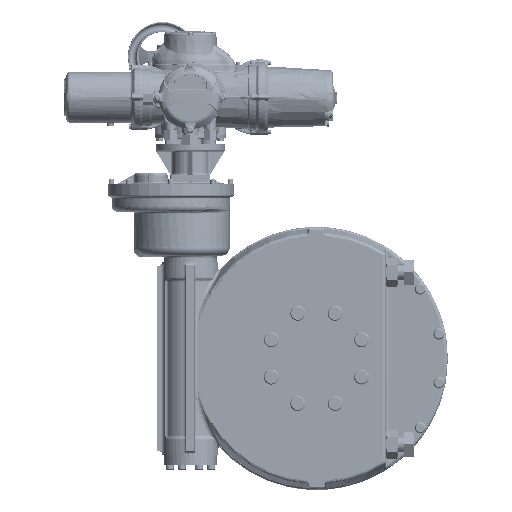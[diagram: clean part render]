
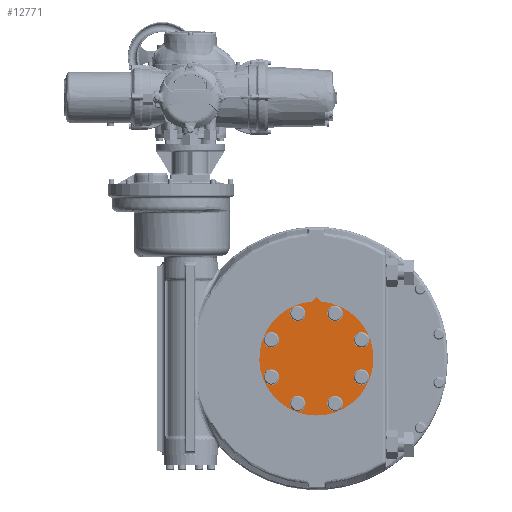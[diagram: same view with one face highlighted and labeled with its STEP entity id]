
A CAD part, front view. The second image highlights one B-rep face of the part: STEP entity #12771.
In plain terms, the highlighted planar face has unit normal (0, -1, 0).
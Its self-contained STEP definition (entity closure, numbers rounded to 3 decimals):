
#12771 = ADVANCED_FACE( '', ( #31224, #31225, #31226, #31227, #31228, #31229, #31230, #31231, #31232 ), #31233, .T. );
#31224 = FACE_BOUND( '', #137440, .T. );
#31225 = FACE_BOUND( '', #137441, .T. );
#31226 = FACE_BOUND( '', #137442, .T. );
#31227 = FACE_BOUND( '', #137443, .T. );
#31228 = FACE_BOUND( '', #137444, .T. );
#31229 = FACE_BOUND( '', #137445, .T. );
#31230 = FACE_BOUND( '', #137446, .T. );
#31231 = FACE_BOUND( '', #137447, .T. );
#31232 = FACE_OUTER_BOUND( '', #137448, .T. );
#31233 = PLANE( '', #137449 );
#137440 = EDGE_LOOP( '', ( #383477 ) );
#137441 = EDGE_LOOP( '', ( #383478 ) );
#137442 = EDGE_LOOP( '', ( #383479 ) );
#137443 = EDGE_LOOP( '', ( #383480 ) );
#137444 = EDGE_LOOP( '', ( #383481 ) );
#137445 = EDGE_LOOP( '', ( #383482 ) );
#137446 = EDGE_LOOP( '', ( #383483 ) );
#137447 = EDGE_LOOP( '', ( #383484 ) );
#137448 = EDGE_LOOP( '', ( #383485, #383486, #383487 ) );
#137449 = AXIS2_PLACEMENT_3D( '', #383488, #383489, #383490 );
#383477 = ORIENTED_EDGE( '', *, *, #439533, .T. );
#383478 = ORIENTED_EDGE( '', *, *, #428770, .T. );
#383479 = ORIENTED_EDGE( '', *, *, #439534, .T. );
#383480 = ORIENTED_EDGE( '', *, *, #439535, .T. );
#383481 = ORIENTED_EDGE( '', *, *, #439536, .T. );
#383482 = ORIENTED_EDGE( '', *, *, #434888, .T. );
#383483 = ORIENTED_EDGE( '', *, *, #439537, .T. );
#383484 = ORIENTED_EDGE( '', *, *, #429261, .T. );
#383485 = ORIENTED_EDGE( '', *, *, #439538, .T. );
#383486 = ORIENTED_EDGE( '', *, *, #439539, .T. );
#383487 = ORIENTED_EDGE( '', *, *, #439540, .T. );
#383488 = CARTESIAN_POINT( '', ( 381., -75.725, -788.975 ) );
#383489 = DIRECTION( '', ( 0., -1., 0. ) );
#383490 = DIRECTION( '', ( 0., 0., 1. ) );
#428770 = EDGE_CURVE( '', #455536, #455536, #455537, .F. );
#429261 = EDGE_CURVE( '', #456400, #456400, #456401, .F. );
#434888 = EDGE_CURVE( '', #465918, #465918, #465919, .F. );
#439533 = EDGE_CURVE( '', #473007, #473007, #473008, .F. );
#439534 = EDGE_CURVE( '', #473009, #473009, #473010, .F. );
#439535 = EDGE_CURVE( '', #473011, #473011, #473012, .F. );
#439536 = EDGE_CURVE( '', #473013, #473013, #473014, .F. );
#439537 = EDGE_CURVE( '', #473015, #473015, #473016, .F. );
#439538 = EDGE_CURVE( '', #473017, #473018, #473019, .T. );
#439539 = EDGE_CURVE( '', #473018, #473020, #473021, .T. );
#439540 = EDGE_CURVE( '', #473020, #473017, #473022, .T. );
#455536 = VERTEX_POINT( '', #499194 );
#455537 = CIRCLE( '', #499195, 23.5 );
#456400 = VERTEX_POINT( '', #502968 );
#456401 = CIRCLE( '', #502969, 23.5 );
#465918 = VERTEX_POINT( '', #548089 );
#465919 = CIRCLE( '', #548090, 23.5 );
#473007 = VERTEX_POINT( '', #587246 );
#473008 = CIRCLE( '', #587247, 23.5 );
#473009 = VERTEX_POINT( '', #587248 );
#473010 = CIRCLE( '', #587249, 23.5 );
#473011 = VERTEX_POINT( '', #587250 );
#473012 = CIRCLE( '', #587251, 23.5 );
#473013 = VERTEX_POINT( '', #587252 );
#473014 = CIRCLE( '', #587253, 23.5 );
#473015 = VERTEX_POINT( '', #587254 );
#473016 = CIRCLE( '', #587255, 23.5 );
#473017 = VERTEX_POINT( '', #587256 );
#473018 = VERTEX_POINT( '', #587257 );
#473019 = LINE( '', #587258, #587259 );
#473020 = VERTEX_POINT( '', #587260 );
#473021 = LINE( '', #587261, #587262 );
#473022 = CIRCLE( '', #587263, 172.5 );
#499194 = CARTESIAN_POINT( '', ( 348.054, -75.725, -652.703 ) );
#499195 = AXIS2_PLACEMENT_3D( '', #680367, #680368, #680369 );
#502968 = CARTESIAN_POINT( '', ( 460.946, -75.725, -652.703 ) );
#502969 = AXIS2_PLACEMENT_3D( '', #680968, #680969, #680970 );
#548089 = CARTESIAN_POINT( '', ( 540.772, -75.725, -845.421 ) );
#548090 = AXIS2_PLACEMENT_3D( '', #687105, #687106, #687107 );
#587246 = CARTESIAN_POINT( '', ( 268.228, -75.725, -732.529 ) );
#587247 = AXIS2_PLACEMENT_3D( '', #691990, #691991, #691992 );
#587248 = CARTESIAN_POINT( '', ( 268.228, -75.725, -845.421 ) );
#587249 = AXIS2_PLACEMENT_3D( '', #691993, #691994, #691995 );
#587250 = CARTESIAN_POINT( '', ( 348.054, -75.725, -925.247 ) );
#587251 = AXIS2_PLACEMENT_3D( '', #691996, #691997, #691998 );
#587252 = CARTESIAN_POINT( '', ( 460.946, -75.725, -925.247 ) );
#587253 = AXIS2_PLACEMENT_3D( '', #691999, #692000, #692001 );
#587254 = CARTESIAN_POINT( '', ( 540.772, -75.725, -732.529 ) );
#587255 = AXIS2_PLACEMENT_3D( '', #692002, #692003, #692004 );
#587256 = CARTESIAN_POINT( '', ( 393.99, -75.725, -616.965 ) );
#587257 = CARTESIAN_POINT( '', ( 381., -75.725, -603.975 ) );
#587258 = CARTESIAN_POINT( '', ( 381., -75.725, -603.975 ) );
#587259 = VECTOR( '', #692005, 1000. );
#587260 = CARTESIAN_POINT( '', ( 368.01, -75.725, -616.965 ) );
#587261 = CARTESIAN_POINT( '', ( 381., -75.725, -603.975 ) );
#587262 = VECTOR( '', #692006, 1000. );
#587263 = AXIS2_PLACEMENT_3D( '', #692007, #692008, #692009 );
#680367 = CARTESIAN_POINT( '', ( 324.554, -75.725, -652.703 ) );
#680368 = DIRECTION( '', ( 0., -1., 0. ) );
#680369 = DIRECTION( '', ( 1., 0., 0. ) );
#680968 = CARTESIAN_POINT( '', ( 437.446, -75.725, -652.703 ) );
#680969 = DIRECTION( '', ( 0., -1., 0. ) );
#680970 = DIRECTION( '', ( 1., 0., 0. ) );
#687105 = CARTESIAN_POINT( '', ( 517.272, -75.725, -845.421 ) );
#687106 = DIRECTION( '', ( 0., -1., 0. ) );
#687107 = DIRECTION( '', ( 1., 0., 0. ) );
#691990 = CARTESIAN_POINT( '', ( 244.728, -75.725, -732.529 ) );
#691991 = DIRECTION( '', ( 0., -1., 0. ) );
#691992 = DIRECTION( '', ( 1., 0., 0. ) );
#691993 = CARTESIAN_POINT( '', ( 244.728, -75.725, -845.421 ) );
#691994 = DIRECTION( '', ( 0., -1., 0. ) );
#691995 = DIRECTION( '', ( 1., 0., 0. ) );
#691996 = CARTESIAN_POINT( '', ( 324.554, -75.725, -925.247 ) );
#691997 = DIRECTION( '', ( 0., -1., 0. ) );
#691998 = DIRECTION( '', ( 1., 0., 0. ) );
#691999 = CARTESIAN_POINT( '', ( 437.446, -75.725, -925.247 ) );
#692000 = DIRECTION( '', ( 0., -1., 0. ) );
#692001 = DIRECTION( '', ( 1., 0., 0. ) );
#692002 = CARTESIAN_POINT( '', ( 517.272, -75.725, -732.529 ) );
#692003 = DIRECTION( '', ( 0., -1., 0. ) );
#692004 = DIRECTION( '', ( 1., 0., 0. ) );
#692005 = DIRECTION( '', ( -0.707, 0., 0.707 ) );
#692006 = DIRECTION( '', ( -0.707, 0., -0.707 ) );
#692007 = CARTESIAN_POINT( '', ( 381., -75.725, -788.975 ) );
#692008 = DIRECTION( '', ( 0., -1., 0. ) );
#692009 = DIRECTION( '', ( 0., 0., 1. ) );
